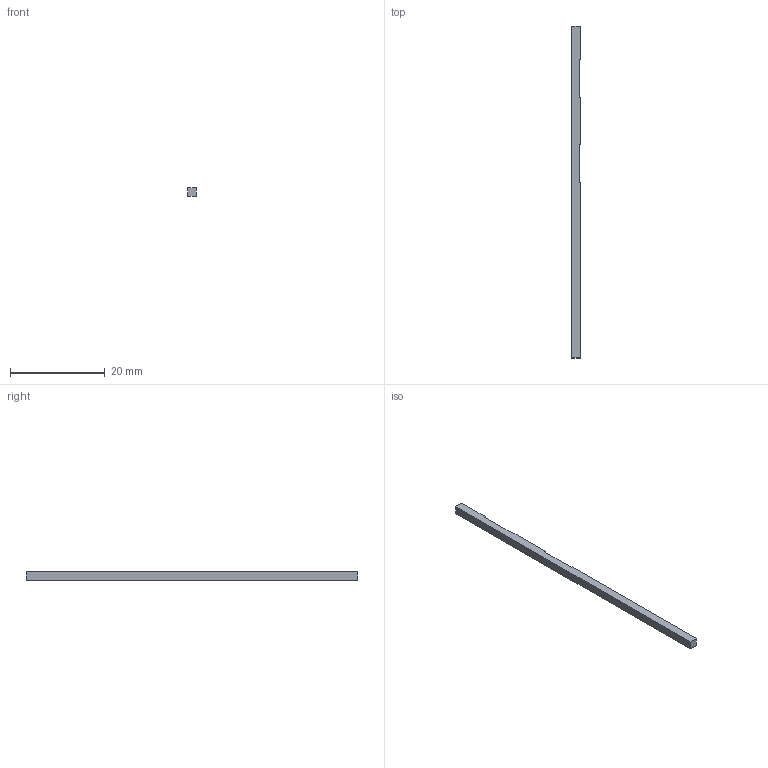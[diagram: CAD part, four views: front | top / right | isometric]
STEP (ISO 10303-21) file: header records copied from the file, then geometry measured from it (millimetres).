
FILE_DESCRIPTION(('Open CASCADE Model'),'2;1');
FILE_NAME('Open CASCADE Shape Model','2026-09-08T16:14:21',('Author'),( 'Open CASCADE'),'Open CASCADE STEP processor 7.7','Open CASCADE 7.7' ,'Unknown');
FILE_SCHEMA(('AUTOMOTIVE_DESIGN { 1 0 10303 214 1 1 1 1 }'));
Length unit declared in the file: millimetre
Products named in the file (1): Open CASCADE STEP translator 7.7 17
Bounding box: 1.8 x 70 x 1.8 mm (x, y, z)
Volume: 219.9 mm3; surface area: 504.5 mm2
Topology: 1 solids, 1 shells, 14 faces, 36 edges, 24 vertices
Faces by surface type: plane 14
Entity records: 866 total; most frequent: CARTESIAN_POINT 179, DIRECTION 106, LINE 76, VECTOR 76, ORIENTED_EDGE 72, PCURVE 72, DEFINITIONAL_REPRESENTATION 72, EDGE_CURVE 36
